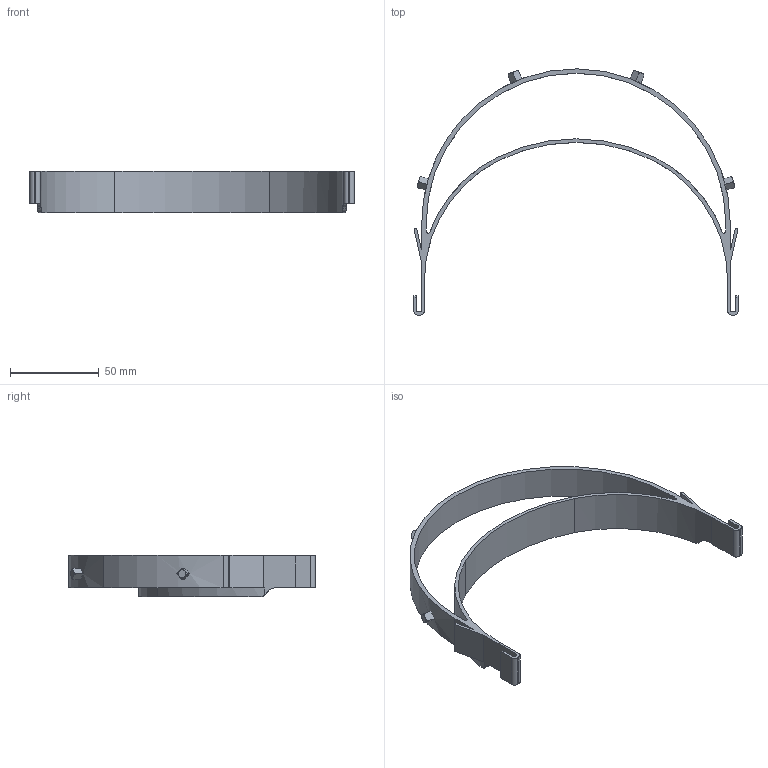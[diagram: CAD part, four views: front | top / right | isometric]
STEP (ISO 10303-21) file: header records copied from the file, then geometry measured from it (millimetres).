
FILE_DESCRIPTION(('STEP AP214'),'1');
FILE_NAME('Face_Shield_Belgique_Injection_Plastique_V_Final_2.stp','2020-04-05T15:21:12',(' '),(' '),'Spatial InterOp 3D',' ',' ');
FILE_SCHEMA(('AUTOMOTIVE_DESIGN { 1 0 10303 214 1 1 1 1 }'));
Length unit declared in the file: metre
Products named in the file (1): Corps
Bounding box: 183 x 138.93 x 23.5 mm (x, y, z)
Volume: 29320.3 mm3; surface area: 29089.5 mm2
Topology: 1 solids, 1 shells, 103 faces, 296 edges, 203 vertices
Faces by surface type: cylinder 48, plane 47, torus 8
Entity records: 4644 total; most frequent: CARTESIAN_POINT 1802, DIRECTION 607, ORIENTED_EDGE 582, EDGE_CURVE 291, AXIS2_PLACEMENT_3D 234, VERTEX_POINT 195, LINE 139, VECTOR 139
